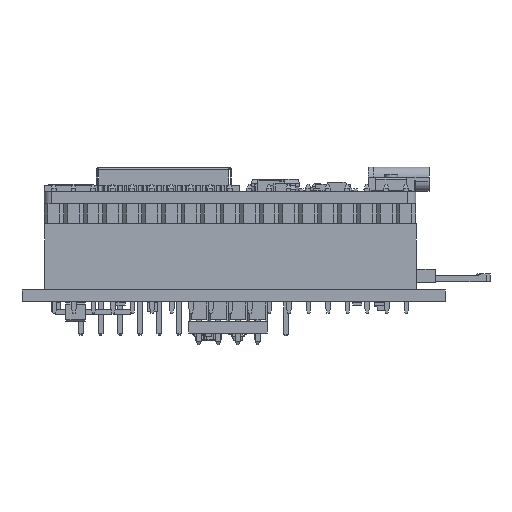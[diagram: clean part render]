
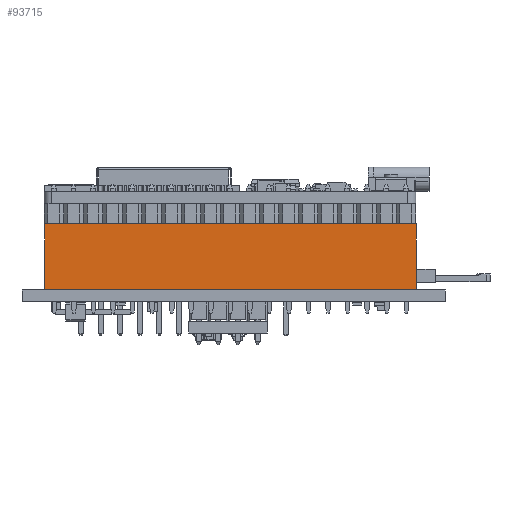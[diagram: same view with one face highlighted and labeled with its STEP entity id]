
A CAD part, front view. The second image highlights one B-rep face of the part: STEP entity #93715.
In plain terms, the highlighted planar face has unit normal (0, -1, 0) as drawn and (-1, 0, 0) by its records, which use the part's own axes.
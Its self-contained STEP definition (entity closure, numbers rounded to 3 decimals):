
#91592 = VERTEX_POINT('',#91593);
#91593 = CARTESIAN_POINT('',(-1.27,-46.99,0.));
#91601 = EDGE_CURVE('',#91592,#91602,#91604,.T.);
#91602 = VERTEX_POINT('',#91603);
#91603 = CARTESIAN_POINT('',(-1.27,-46.99,8.5));
#91604 = LINE('',#91605,#91606);
#91605 = CARTESIAN_POINT('',(-1.27,-46.99,0.));
#91606 = VECTOR('',#91607,1.);
#91607 = DIRECTION('',(0.,0.,1.));
#91664 = VERTEX_POINT('',#91665);
#91665 = CARTESIAN_POINT('',(-1.27,1.27,8.5));
#91671 = EDGE_CURVE('',#91672,#91664,#91674,.T.);
#91672 = VERTEX_POINT('',#91673);
#91673 = CARTESIAN_POINT('',(-1.27,1.27,0.));
#91674 = LINE('',#91675,#91676);
#91675 = CARTESIAN_POINT('',(-1.27,1.27,0.));
#91676 = VECTOR('',#91677,1.);
#91677 = DIRECTION('',(0.,0.,1.));
#91736 = EDGE_CURVE('',#91664,#91602,#91737,.T.);
#91737 = LINE('',#91738,#91739);
#91738 = CARTESIAN_POINT('',(-1.27,1.27,8.5));
#91739 = VECTOR('',#91740,1.);
#91740 = DIRECTION('',(0.,-1.,0.));
#92405 = EDGE_CURVE('',#91672,#91592,#92406,.T.);
#92406 = LINE('',#92407,#92408);
#92407 = CARTESIAN_POINT('',(-1.27,1.27,0.));
#92408 = VECTOR('',#92409,1.);
#92409 = DIRECTION('',(0.,-1.,0.));
#93715 = ADVANCED_FACE('',(#93716),#93722,.F.);
#93716 = FACE_BOUND('',#93717,.F.);
#93717 = EDGE_LOOP('',(#93718,#93719,#93720,#93721));
#93718 = ORIENTED_EDGE('',*,*,#91671,.T.);
#93719 = ORIENTED_EDGE('',*,*,#91736,.T.);
#93720 = ORIENTED_EDGE('',*,*,#91601,.F.);
#93721 = ORIENTED_EDGE('',*,*,#92405,.F.);
#93722 = PLANE('',#93723);
#93723 = AXIS2_PLACEMENT_3D('',#93724,#93725,#93726);
#93724 = CARTESIAN_POINT('',(-1.27,1.27,0.));
#93725 = DIRECTION('',(1.,0.,0.));
#93726 = DIRECTION('',(0.,-1.,0.));
